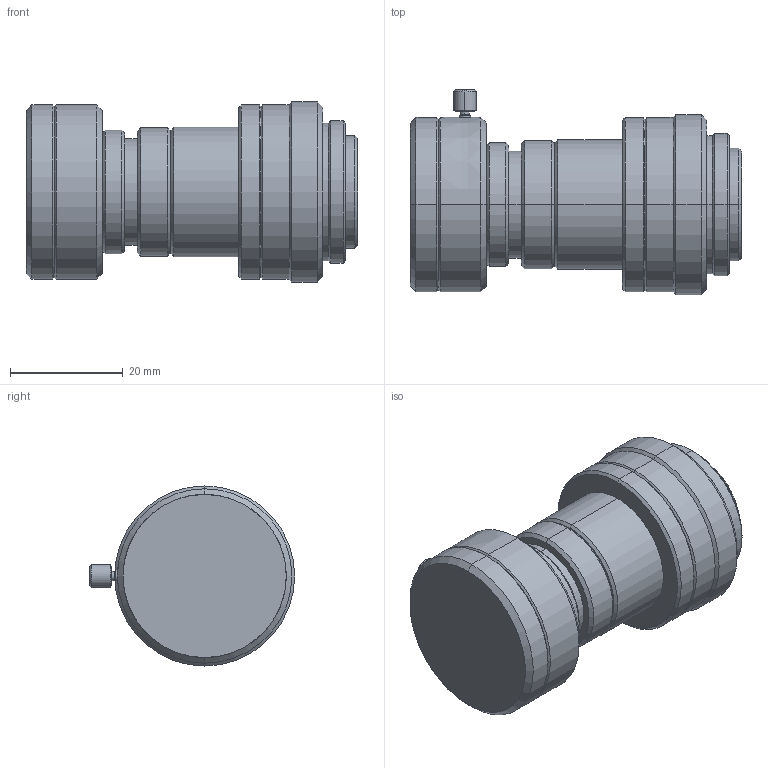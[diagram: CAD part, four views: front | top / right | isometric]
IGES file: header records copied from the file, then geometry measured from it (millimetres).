
Start section: SolidWorks IGES file using analytic representation for surfaces
Global section: file name: C:\Users\tsuji_vst\Documents\【作業フォルダ】\【3D】\09 SOG\VS-MC024S\VS-MC024S.IGS; native system: SolidWorks 2018; preprocessor: SolidWorks 2018; author: tsuji_vst; date: 190208.110457; units: millimetre
Bounding box: 58.9 x 36.5 x 32 mm (x, y, z)
Surface area: 7430.1 mm2 (no closed solid volume)
Topology: 0 solids, 0 shells, 81 faces, 1046 edges, 1046 vertices
Faces by surface type: revolution 70, bspline 11
